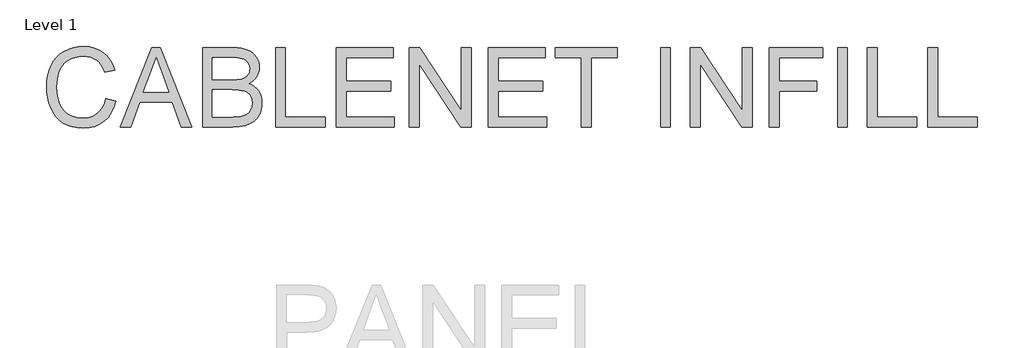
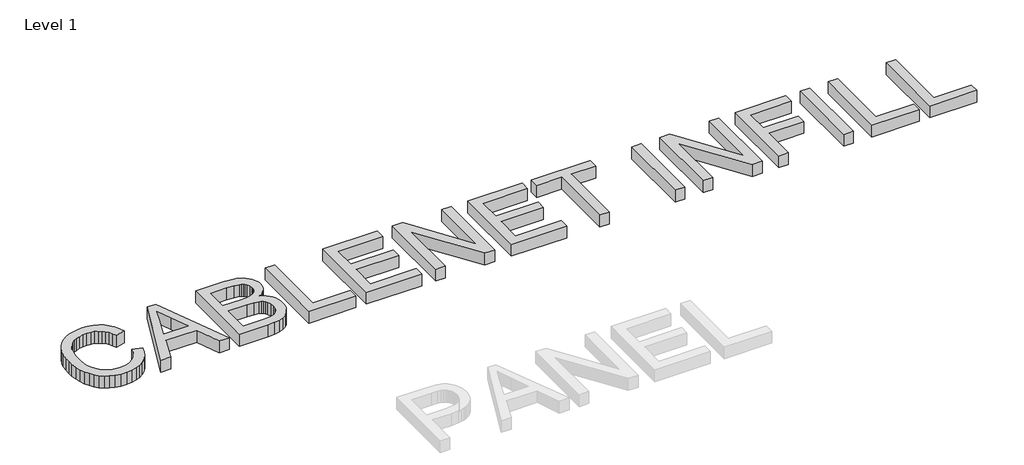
# One storey, part 6 of 8: 1 proxy.
"""IFC4 building model written with IfcOpenShell, lengths in millimetres."""

from ifc_helpers import new_model, si_unit, origin, place, context, project, spatial, faceted_brep, element, save

model = new_model("IFC4")

# Units and contexts
model_context = context("Model", 3, world=origin())
ifc_project = project(units=[si_unit("LENGTHUNIT", "METRE", prefix="MILLI")], contexts=[model_context])

# Site, building, storey
site = spatial("IfcSite", under=ifc_project)
building = spatial("IfcBuilding", under=site)
storey = spatial("IfcBuildingStorey", under=building, Name="Level 1", Elevation=0.0)

# Proxy
placement = place(None, origin())
element("IfcBuildingElementProxy", 1, Name="36\" Arial", ObjectType="36\" Arial", at=placement, inside=storey, context=model_context, shape_type="Brep", body=[
    faceted_brep([(45514.4844259, -16970.1990264, 152.4), (45498.8903267, -17022.537201, 152.4), (45477.5381918, -17068.0159239, 152.4), (45450.4280212, -17106.635195, 152.4), (45417.5598148, -17138.3950144, 152.4), (45379.8258591, -17163.1838461, 152.4), (45338.1184405, -17180.8901546, 152.4), (45292.437559, -17191.5139396, 152.4), (45242.7832145, -17195.0552013, 152.4), (45201.1455058, -17192.4550229, 152.4), (45160.9995884, -17184.6544879, 152.4), (45122.3454624, -17171.653596, 152.4), (45085.1831277, -17153.4523475, 152.4), (45051.1647083, -17129.9949743, 152.4), (45021.9423285, -17101.2257087, 152.4), (44997.515988, -17067.1445505, 152.4), (44977.885687, -17027.7514997, 152.4), (44962.8074409, -16983.9179299, 152.4), (44952.0372651, -16936.5152145, 152.4), (44945.5751597, -16885.5433534, 152.4), (44943.4211245, -16831.0023467, 152.4), (44945.2405523, -16787.6009781, 152.4), (44950.6988355, -16744.8409404, 152.4), (44959.7959743, -16702.7222335, 152.4), (44972.5319686, -16661.2448575, 152.4), (44989.7572789, -16622.1794432, 152.4), (45012.3223656, -16587.2966214, 152.4), (45040.2272288, -16556.5963921, 152.4), (45073.4718685, -16530.0787554, 152.4), (45111.5752866, -16508.7057076, 152.4), (45154.0564848, -16493.4392448, 152.4), (45200.9154632, -16484.2793671, 152.4), (45252.1522218, -16481.2260746, 152.4), (45296.6828904, -16483.9796147, 152.4), (45337.254038, -16492.2402349, 152.4), (45373.8656647, -16506.0079354, 152.4), (45406.5177705, -16525.282716, 152.4), (45435.377659, -16550.5804299, 152.4), (45460.612634, -16582.4169301, 152.4), (45482.2226954, -16620.7922166, 152.4), (45500.2078434, -16665.7062895, 152.4), (45614.4205036, -16638.4915541, 152.4), (45592.7198193, -16577.5372388, 152.4), (45563.9784376, -16523.8327506, 152.4), (45528.1963584, -16477.3780894, 152.4), (45485.3735818, -16438.1732554, 152.4), (45436.3187423, -16407.0408249, 152.4), (45381.8404745, -16384.8033746, 152.4), (45321.9387783, -16371.4609044, 152.4), (45256.6136539, -16367.0134143, 152.4), (45197.9737065, -16370.4501112, 152.4), (45141.8433146, -16380.7602018, 152.4), (45088.2224782, -16397.9436861, 152.4), (45037.1111974, -16422.0005642, 152.4), (44990.1058282, -16452.6798805, 152.4), (44948.8027269, -16489.7306794, 152.4), (44913.2018934, -16533.152961, 152.4), (44883.3033278, -16582.9467251, 152.4), (44859.636825, -16638.1987726, 152.4), (44842.7321801, -16697.9959039, 152.4), (44832.5893932, -16762.3381191, 152.4), (44829.2084642, -16831.2254183, 152.4), (44832.1990179, -16895.4282138, 152.4), (44841.1706789, -16957.539713, 152.4), (44856.1234472, -17017.5599159, 152.4), (44877.0573229, -17075.4888226, 152.4), (44903.7143793, -17129.0120651, 152.4), (44935.83669, -17175.8152756, 152.4), (44973.424255, -17215.8984541, 152.4), (45016.4770742, -17249.2616006, 152.4), (45065.6713335, -17275.5143398, 152.4), (45121.6832185, -17294.2662963, 152.4), (45184.5127295, -17305.5174703, 152.4), (45254.1598662, -17309.2678616, 152.4), (45322.140937, -17304.3114894, 152.4), (45384.6567535, -17289.4423729, 152.4), (45441.7073157, -17264.6605121, 152.4), (45493.2926237, -17229.965907, 152.4), (45538.3949132, -17185.8325847, 152.4), (45575.9964202, -17132.7345725, 152.4), (45606.0971445, -17070.6718702, 152.4), (45628.6970862, -16999.6444779, 152.4), (45514.4844259, -16970.1990264, 0.0), (45628.6970862, -16999.6444779, 0.0), (45606.0971445, -17070.6718702, 0.0), (45575.9964202, -17132.7345725, 0.0), (45538.3949132, -17185.8325847, 0.0), (45493.2926237, -17229.965907, 0.0), (45441.7073157, -17264.6605121, 0.0), (45384.6567535, -17289.4423729, 0.0), (45322.140937, -17304.3114894, 0.0), (45254.1598662, -17309.2678616, 0.0), (45184.5127295, -17305.5174703, 0.0), (45121.6832185, -17294.2662963, 0.0), (45065.6713335, -17275.5143398, 0.0), (45016.4770742, -17249.2616006, 0.0), (44973.424255, -17215.8984541, 0.0), (44935.83669, -17175.8152756, 0.0), (44903.7143793, -17129.0120651, 0.0), (44877.0573229, -17075.4888226, 0.0), (44856.1234472, -17017.5599159, 0.0), (44841.1706789, -16957.539713, 0.0), (44832.1990179, -16895.4282138, 0.0), (44829.2084642, -16831.2254183, 0.0), (44832.5893932, -16762.3381191, 0.0), (44842.7321801, -16697.9959039, 0.0), (44859.636825, -16638.1987726, 0.0), (44883.3033278, -16582.9467251, 0.0), (44913.2018934, -16533.152961, 0.0), (44948.8027269, -16489.7306794, 0.0), (44990.1058282, -16452.6798805, 0.0), (45037.1111974, -16422.0005642, 0.0), (45088.2224782, -16397.9436861, 0.0), (45141.8433146, -16380.7602018, 0.0), (45197.9737065, -16370.4501112, 0.0), (45256.6136539, -16367.0134143, 0.0), (45321.9387783, -16371.4609044, 0.0), (45381.8404745, -16384.8033746, 0.0), (45436.3187423, -16407.0408249, 0.0), (45485.3735818, -16438.1732554, 0.0), (45528.1963584, -16477.3780894, 0.0), (45563.9784376, -16523.8327506, 0.0), (45592.7198193, -16577.5372388, 0.0), (45614.4205036, -16638.4915541, 0.0), (45500.2078434, -16665.7062895, 0.0), (45482.2226954, -16620.7922166, 0.0), (45460.612634, -16582.4169301, 0.0), (45435.377659, -16550.5804299, 0.0), (45406.5177705, -16525.282716, 0.0), (45373.8656647, -16506.0079354, 0.0), (45337.254038, -16492.2402349, 0.0), (45296.6828904, -16483.9796147, 0.0), (45252.1522218, -16481.2260746, 0.0), (45200.9154632, -16484.2793671, 0.0), (45154.0564848, -16493.4392448, 0.0), (45111.5752866, -16508.7057076, 0.0), (45073.4718685, -16530.0787554, 0.0), (45040.2272288, -16556.5963921, 0.0), (45012.3223656, -16587.2966214, 0.0), (44989.7572789, -16622.1794432, 0.0), (44972.5319686, -16661.2448575, 0.0), (44959.7959743, -16702.7222335, 0.0), (44950.6988355, -16744.8409404, 0.0), (44945.2405523, -16787.6009781, 0.0), (44943.4211245, -16831.0023467, 0.0), (44945.5751597, -16885.5433534, 0.0), (44952.0372651, -16936.5152145, 0.0), (44962.8074409, -16983.9179299, 0.0), (44977.885687, -17027.7514997, 0.0), (44997.515988, -17067.1445505, 0.0), (45021.9423285, -17101.2257087, 0.0), (45051.1647083, -17129.9949743, 0.0), (45085.1831277, -17153.4523475, 0.0), (45122.3454624, -17171.653596, 0.0), (45160.9995884, -17184.6544879, 0.0), (45201.1455058, -17192.4550229, 0.0), (45242.7832145, -17195.0552013, 0.0), (45292.437559, -17191.5139396, 0.0), (45338.1184405, -17180.8901546, 0.0), (45379.8258591, -17163.1838461, 0.0), (45417.5598148, -17138.3950144, 0.0), (45450.4280212, -17106.635195, 0.0), (45477.5381918, -17068.0159239, 0.0), (45498.8903267, -17022.537201, 0.0)], [[[0, 1, 2, 3, 4, 5, 6, 7, 8, 9, 10, 11, 12, 13, 14, 15, 16, 17, 18, 19, 20, 21, 22, 23, 24, 25, 26, 27, 28, 29, 30, 31, 32, 33, 34, 35, 36, 37, 38, 39, 40, 41, 42, 43, 44, 45, 46, 47, 48, 49, 50, 51, 52, 53, 54, 55, 56, 57, 58, 59, 60, 61, 62, 63, 64, 65, 66, 67, 68, 69, 70, 71, 72, 73, 74, 75, 76, 77, 78, 79, 80, 81]], [[82, 83, 84, 85, 86, 87, 88, 89, 90, 91, 92, 93, 94, 95, 96, 97, 98, 99, 100, 101, 102, 103, 104, 105, 106, 107, 108, 109, 110, 111, 112, 113, 114, 115, 116, 117, 118, 119, 120, 121, 122, 123, 124, 125, 126, 127, 128, 129, 130, 131, 132, 133, 134, 135, 136, 137, 138, 139, 140, 141, 142, 143, 144, 145, 146, 147, 148, 149, 150, 151, 152, 153, 154, 155, 156, 157, 158, 159, 160, 161, 162, 163]], [[63, 62, 102, 101]], [[64, 63, 101, 100]], [[65, 64, 100, 99]], [[66, 65, 99, 98]], [[67, 66, 98, 97]], [[68, 67, 97, 96]], [[69, 68, 96, 95]], [[70, 69, 95, 94]], [[71, 70, 94, 93]], [[72, 71, 93, 92]], [[73, 72, 92, 91]], [[74, 73, 91, 90]], [[75, 74, 90, 89]], [[76, 75, 89, 88]], [[77, 76, 88, 87]], [[78, 77, 87, 86]], [[79, 78, 86, 85]], [[80, 79, 85, 84]], [[81, 80, 84, 83]], [[0, 81, 83, 82]], [[61, 60, 104, 103]], [[62, 61, 103, 102]], [[54, 53, 111, 110]], [[55, 54, 110, 109]], [[56, 55, 109, 108]], [[57, 56, 108, 107]], [[58, 57, 107, 106]], [[59, 58, 106, 105]], [[60, 59, 105, 104]], [[33, 32, 132, 131]], [[34, 33, 131, 130]], [[35, 34, 130, 129]], [[36, 35, 129, 128]], [[37, 36, 128, 127]], [[38, 37, 127, 126]], [[39, 38, 126, 125]], [[40, 39, 125, 124]], [[41, 40, 124, 123]], [[42, 41, 123, 122]], [[43, 42, 122, 121]], [[44, 43, 121, 120]], [[45, 44, 120, 119]], [[46, 45, 119, 118]], [[47, 46, 118, 117]], [[48, 47, 117, 116]], [[49, 48, 116, 115]], [[50, 49, 115, 114]], [[51, 50, 114, 113]], [[52, 51, 113, 112]], [[53, 52, 112, 111]], [[1, 0, 82, 163]], [[2, 1, 163, 162]], [[3, 2, 162, 161]], [[4, 3, 161, 160]], [[5, 4, 160, 159]], [[6, 5, 159, 158]], [[7, 6, 158, 157]], [[8, 7, 157, 156]], [[9, 8, 156, 155]], [[10, 9, 155, 154]], [[11, 10, 154, 153]], [[12, 11, 153, 152]], [[13, 12, 152, 151]], [[14, 13, 151, 150]], [[15, 14, 150, 149]], [[16, 15, 149, 148]], [[17, 16, 148, 147]], [[18, 17, 147, 146]], [[19, 18, 146, 145]], [[20, 19, 145, 144]], [[21, 20, 144, 143]], [[22, 21, 143, 142]], [[23, 22, 142, 141]], [[24, 23, 141, 140]], [[25, 24, 140, 139]], [[26, 25, 139, 138]], [[27, 26, 138, 137]], [[28, 27, 137, 136]], [[29, 28, 136, 135]], [[30, 29, 135, 134]], [[31, 30, 134, 133]], [[32, 31, 133, 132]]]),
    faceted_brep([(45679.3343398, -17294.991279, 152.4), (45800.0160766, -17294.991279, 152.4), (45904.4135864, -17009.4596284, 152.4), (46280.7353791, -17009.4596284, 152.4), (46385.3559605, -17294.991279, 152.4), (46506.0376972, -17294.991279, 152.4), (46141.3156278, -16381.2899968, 152.4), (46044.0564093, -16381.2899968, 152.4), (45946.3510476, -16895.2469681, 152.4), (46035.80276, -16650.9835638, 152.4), (46092.6860185, -16495.5026571, 152.4), (46156.7075683, -16670.6138648, 152.4), (46239.0209895, -16895.2469681, 152.4), (45679.3343398, -17294.991279, 0.0), (46044.0564093, -16381.2899968, 0.0), (46141.3156278, -16381.2899968, 0.0), (46506.0376972, -17294.991279, 0.0), (46385.3559605, -17294.991279, 0.0), (46280.7353791, -17009.4596284, 0.0), (45904.4135864, -17009.4596284, 0.0), (45800.0160766, -17294.991279, 0.0), (45946.3510476, -16895.2469681, 0.0), (46239.0209895, -16895.2469681, 0.0), (46156.7075683, -16670.6138648, 0.0), (46092.6860185, -16495.5026571, 0.0), (46035.80276, -16650.9835638, 0.0)], [[[0, 1, 2, 3, 4, 5, 6, 7], [8, 9, 10, 11, 12]], [[13, 14, 15, 16, 17, 18, 19, 20], [21, 22, 23, 24, 25]], [[1, 0, 13, 20]], [[2, 1, 20, 19]], [[3, 2, 19, 18]], [[4, 3, 18, 17]], [[5, 4, 17, 16]], [[6, 5, 16, 15]], [[7, 6, 15, 14]], [[0, 7, 14, 13]], [[9, 8, 21, 25]], [[10, 9, 25, 24]], [[11, 10, 24, 23]], [[12, 11, 23, 22]], [[8, 12, 22, 21]]]),
    faceted_brep([(46628.0578636, -17294.991279, 152.4), (46974.0419184, -17294.991279, 152.4), (47054.0409717, -17291.0596421, 152.4), (47120.4884252, -17279.2647311, 152.4), (47175.1688517, -17259.8017338, 152.4), (47219.866824, -17232.8658379, 152.4), (47238.918533, -17215.8984541, 152.4), (47256.3669148, -17195.6686482, 152.4), (47286.4536972, -17145.4217698, 152.4), (47298.2137532, -17116.4573165, 152.4), (47306.6137932, -17086.3356792, 152.4), (47311.6538172, -17055.056858, 152.4), (47313.3338252, -17022.6208529, 152.4), (47310.8730666, -16983.0395855, 152.4), (47303.4907908, -16946.1630613, 152.4), (47291.1869977, -16911.9912802, 152.4), (47273.9616875, -16880.5242423, 152.4), (47252.1634093, -16852.6124081, 152.4), (47226.1407128, -16829.1062381, 152.4), (47195.8935977, -16810.0057321, 152.4), (47161.4220642, -16795.3108903, 152.4), (47190.4701694, -16778.7129689, 152.4), (47215.6005796, -16759.7030858, 152.4), (47236.8132947, -16738.2812411, 152.4), (47254.1083149, -16714.4474346, 152.4), (47267.5274659, -16688.996359, 152.4), (47277.1125738, -16662.7227068, 152.4), (47282.8636386, -16635.6264782, 152.4), (47284.7806602, -16607.707673, 152.4), (47282.5011472, -16577.4814709, 152.4), (47275.6626084, -16547.9244836, 152.4), (47264.2650438, -16519.0367111, 152.4), (47248.3084532, -16490.8181535, 152.4), (47228.3296029, -16464.739689, 152.4), (47204.8652587, -16442.2721961, 152.4), (47177.9154208, -16423.4156747, 152.4), (47147.4800891, -16408.1701249, 152.4), (47112.6739482, -16396.4100689, 152.4), (47072.6116826, -16388.0100288, 152.4), (47027.2932925, -16382.9700048, 152.4), (46976.7187777, -16381.2899968, 152.4), (46628.0578636, -16381.2899968, 152.4), (46742.2705239, -16752.4811427, 152.4), (46742.2705239, -16495.5026571, 152.4), (46935.0043881, -16495.5026571, 152.4), (47023.6753499, -16498.4862398, 152.4), (47081.7855023, -16507.4369878, 152.4), (47101.9595403, -16514.6659019, 152.4), (47119.6519067, -16524.4183135, 152.4), (47134.8626016, -16536.6942226, 152.4), (47147.5916249, -16551.4936292, 152.4), (47164.8239061, -16586.1812634, 152.4), (47170.5679999, -16625.9995443, 152.4), (47169.0274116, -16647.4632151, 152.4), (47164.4056469, -16667.0168352, 152.4), (47156.7027056, -16684.6604047, 152.4), (47145.9185879, -16700.3939236, 152.4), (47132.0951195, -16714.1197982, 152.4), (47115.2741265, -16725.7404344, 152.4), (47072.6395666, -16742.6659922, 152.4), (47023.7868857, -16750.0273551, 152.4), (46950.8424718, -16752.4811427, 152.4), (46742.2705239, -17180.7786188, 152.4), (46742.2705239, -16866.693803, 152.4), (46965.342126, -16866.693803, 152.4), (47046.6796089, -16870.5139042, 152.4), (47106.4349143, -16881.9742078, 152.4), (47129.2230726, -16891.0155786, 152.4), (47148.623331, -16902.8592865, 152.4), (47164.6356895, -16917.5053314, 152.4), (47177.260148, -16934.9537132, 152.4), (47193.6559107, -16975.998888, 152.4), (47199.121165, -17023.7362109, 152.4), (47194.4645453, -17064.8371536, 152.4), (47180.4946862, -17100.6959136, 152.4), (47159.302884, -17130.0019453, 152.4), (47132.9804349, -17151.4447031, 152.4), (47100.6071687, -17166.4183844, 152.4), (47061.2629149, -17176.3171867, 152.4), (46976.4957061, -17180.7786188, 152.4), (46628.0578636, -17294.991279, 0.0), (46628.0578636, -16381.2899968, 0.0), (46976.7187777, -16381.2899968, 0.0), (47027.2932925, -16382.9700048, 0.0), (47072.6116826, -16388.0100288, 0.0), (47112.6739482, -16396.4100689, 0.0), (47147.4800891, -16408.1701249, 0.0), (47177.9154208, -16423.4156747, 0.0), (47204.8652587, -16442.2721961, 0.0), (47228.3296029, -16464.739689, 0.0), (47248.3084532, -16490.8181535, 0.0), (47264.2650438, -16519.0367111, 0.0), (47275.6626084, -16547.9244836, 0.0), (47282.5011472, -16577.4814709, 0.0), (47284.7806602, -16607.707673, 0.0), (47282.8636386, -16635.6264782, 0.0), (47277.1125738, -16662.7227068, 0.0), (47267.5274659, -16688.996359, 0.0), (47254.1083149, -16714.4474346, 0.0), (47236.8132947, -16738.2812411, 0.0), (47215.6005796, -16759.7030858, 0.0), (47190.4701694, -16778.7129689, 0.0), (47161.4220642, -16795.3108903, 0.0), (47195.8935977, -16810.0057321, 0.0), (47226.1407128, -16829.1062381, 0.0), (47252.1634093, -16852.6124081, 0.0), (47273.9616875, -16880.5242423, 0.0), (47291.1869977, -16911.9912802, 0.0), (47303.4907908, -16946.1630613, 0.0), (47310.8730666, -16983.0395855, 0.0), (47313.3338252, -17022.6208529, 0.0), (47311.6538172, -17055.056858, 0.0), (47306.6137932, -17086.3356792, 0.0), (47298.2137532, -17116.4573165, 0.0), (47286.4536972, -17145.4217698, 0.0), (47256.3669148, -17195.6686482, 0.0), (47238.918533, -17215.8984541, 0.0), (47219.866824, -17232.8658379, 0.0), (47175.1688517, -17259.8017338, 0.0), (47120.4884252, -17279.2647311, 0.0), (47054.0409717, -17291.0596421, 0.0), (46974.0419184, -17294.991279, 0.0), (46742.2705239, -16752.4811427, 0.0), (46950.8424718, -16752.4811427, 0.0), (47023.7868857, -16750.0273551, 0.0), (47072.6395666, -16742.6659922, 0.0), (47115.2741265, -16725.7404344, 0.0), (47132.0951195, -16714.1197982, 0.0), (47145.9185879, -16700.3939236, 0.0), (47156.7027056, -16684.6604047, 0.0), (47164.4056469, -16667.0168352, 0.0), (47169.0274116, -16647.4632151, 0.0), (47170.5679999, -16625.9995443, 0.0), (47164.8239061, -16586.1812634, 0.0), (47147.5916249, -16551.4936292, 0.0), (47134.8626016, -16536.6942226, 0.0), (47119.6519067, -16524.4183135, 0.0), (47101.9595403, -16514.6659019, 0.0), (47081.7855023, -16507.4369878, 0.0), (47023.6753499, -16498.4862398, 0.0), (46935.0043881, -16495.5026571, 0.0), (46742.2705239, -16495.5026571, 0.0), (46742.2705239, -17180.7786188, 0.0), (46976.4957061, -17180.7786188, 0.0), (47061.2629149, -17176.3171867, 0.0), (47100.6071687, -17166.4183844, 0.0), (47132.9804349, -17151.4447031, 0.0), (47159.302884, -17130.0019453, 0.0), (47180.4946862, -17100.6959136, 0.0), (47194.4645453, -17064.8371536, 0.0), (47199.121165, -17023.7362109, 0.0), (47193.6559107, -16975.998888, 0.0), (47177.260148, -16934.9537132, 0.0), (47164.6356895, -16917.5053314, 0.0), (47148.623331, -16902.8592865, 0.0), (47129.2230726, -16891.0155786, 0.0), (47106.4349143, -16881.9742078, 0.0), (47046.6796089, -16870.5139042, 0.0), (46965.342126, -16866.693803, 0.0), (46742.2705239, -16866.693803, 0.0)], [[[0, 1, 2, 3, 4, 5, 6, 7, 8, 9, 10, 11, 12, 13, 14, 15, 16, 17, 18, 19, 20, 21, 22, 23, 24, 25, 26, 27, 28, 29, 30, 31, 32, 33, 34, 35, 36, 37, 38, 39, 40, 41], [42, 43, 44, 45, 46, 47, 48, 49, 50, 51, 52, 53, 54, 55, 56, 57, 58, 59, 60, 61], [62, 63, 64, 65, 66, 67, 68, 69, 70, 71, 72, 73, 74, 75, 76, 77, 78, 79]], [[80, 81, 82, 83, 84, 85, 86, 87, 88, 89, 90, 91, 92, 93, 94, 95, 96, 97, 98, 99, 100, 101, 102, 103, 104, 105, 106, 107, 108, 109, 110, 111, 112, 113, 114, 115, 116, 117, 118, 119, 120, 121], [122, 123, 124, 125, 126, 127, 128, 129, 130, 131, 132, 133, 134, 135, 136, 137, 138, 139, 140, 141], [142, 143, 144, 145, 146, 147, 148, 149, 150, 151, 152, 153, 154, 155, 156, 157, 158, 159]], [[37, 36, 86, 85]], [[38, 37, 85, 84]], [[39, 38, 84, 83]], [[40, 39, 83, 82]], [[41, 40, 82, 81]], [[0, 41, 81, 80]], [[16, 15, 107, 106]], [[17, 16, 106, 105]], [[18, 17, 105, 104]], [[19, 18, 104, 103]], [[20, 19, 103, 102]], [[21, 20, 102, 101]], [[22, 21, 101, 100]], [[23, 22, 100, 99]], [[24, 23, 99, 98]], [[25, 24, 98, 97]], [[26, 25, 97, 96]], [[27, 26, 96, 95]], [[28, 27, 95, 94]], [[29, 28, 94, 93]], [[30, 29, 93, 92]], [[31, 30, 92, 91]], [[32, 31, 91, 90]], [[33, 32, 90, 89]], [[34, 33, 89, 88]], [[35, 34, 88, 87]], [[36, 35, 87, 86]], [[1, 0, 80, 121]], [[2, 1, 121, 120]], [[3, 2, 120, 119]], [[4, 3, 119, 118]], [[5, 4, 118, 117]], [[6, 5, 117, 116]], [[7, 6, 116, 115]], [[8, 7, 115, 114]], [[9, 8, 114, 113]], [[10, 9, 113, 112]], [[11, 10, 112, 111]], [[12, 11, 111, 110]], [[13, 12, 110, 109]], [[14, 13, 109, 108]], [[15, 14, 108, 107]], [[43, 42, 122, 141]], [[44, 43, 141, 140]], [[45, 44, 140, 139]], [[46, 45, 139, 138]], [[47, 46, 138, 137]], [[48, 47, 137, 136]], [[49, 48, 136, 135]], [[50, 49, 135, 134]], [[51, 50, 134, 133]], [[52, 51, 133, 132]], [[53, 52, 132, 131]], [[54, 53, 131, 130]], [[55, 54, 130, 129]], [[56, 55, 129, 128]], [[57, 56, 128, 127]], [[58, 57, 127, 126]], [[59, 58, 126, 125]], [[60, 59, 125, 124]], [[61, 60, 124, 123]], [[42, 61, 123, 122]], [[63, 62, 142, 159]], [[64, 63, 159, 158]], [[65, 64, 158, 157]], [[66, 65, 157, 156]], [[67, 66, 156, 155]], [[68, 67, 155, 154]], [[69, 68, 154, 153]], [[70, 69, 153, 152]], [[71, 70, 152, 151]], [[72, 71, 151, 150]], [[73, 72, 150, 149]], [[74, 73, 149, 148]], [[75, 74, 148, 147]], [[76, 75, 147, 146]], [[77, 76, 146, 145]], [[78, 77, 145, 144]], [[79, 78, 144, 143]], [[62, 79, 143, 142]]]),
    faceted_brep([(47470.3762331, -17294.991279, 152.4), (48041.4395345, -17294.991279, 152.4), (48041.4395345, -17180.7786188, 152.4), (47584.5888934, -17180.7786188, 152.4), (47584.5888934, -16381.2899968, 152.4), (47470.3762331, -16381.2899968, 152.4), (47470.3762331, -17294.991279, 0.0), (47470.3762331, -16381.2899968, 0.0), (47584.5888934, -16381.2899968, 0.0), (47584.5888934, -17180.7786188, 0.0), (48041.4395345, -17180.7786188, 0.0), (48041.4395345, -17294.991279, 0.0)], [[[0, 1, 2, 3, 4, 5]], [[6, 7, 8, 9, 10, 11]], [[1, 0, 6, 11]], [[2, 1, 11, 10]], [[3, 2, 10, 9]], [[4, 3, 9, 8]], [[5, 4, 8, 7]], [[0, 5, 7, 6]]]),
    faceted_brep([(48169.9287773, -17294.991279, 152.4), (48840.9281564, -17294.991279, 152.4), (48840.9281564, -17180.7786188, 152.4), (48284.1414376, -17180.7786188, 152.4), (48284.1414376, -16880.9703855, 152.4), (48798.0984088, -16880.9703855, 152.4), (48798.0984088, -16766.7577253, 152.4), (48284.1414376, -16766.7577253, 152.4), (48284.1414376, -16495.5026571, 152.4), (48826.6515739, -16495.5026571, 152.4), (48826.6515739, -16381.2899968, 152.4), (48169.9287773, -16381.2899968, 152.4), (48169.9287773, -17294.991279, 0.0), (48169.9287773, -16381.2899968, 0.0), (48826.6515739, -16381.2899968, 0.0), (48826.6515739, -16495.5026571, 0.0), (48284.1414376, -16495.5026571, 0.0), (48284.1414376, -16766.7577253, 0.0), (48798.0984088, -16766.7577253, 0.0), (48798.0984088, -16880.9703855, 0.0), (48284.1414376, -16880.9703855, 0.0), (48284.1414376, -17180.7786188, 0.0), (48840.9281564, -17180.7786188, 0.0), (48840.9281564, -17294.991279, 0.0)], [[[0, 1, 2, 3, 4, 5, 6, 7, 8, 9, 10, 11]], [[12, 13, 14, 15, 16, 17, 18, 19, 20, 21, 22, 23]], [[10, 9, 15, 14]], [[11, 10, 14, 13]], [[0, 11, 13, 12]], [[1, 0, 12, 23]], [[2, 1, 23, 22]], [[3, 2, 22, 21]], [[4, 3, 21, 20]], [[5, 4, 20, 19]], [[6, 5, 19, 18]], [[7, 6, 18, 17]], [[8, 7, 17, 16]], [[9, 8, 16, 15]]]),
    faceted_brep([(49012.2471468, -17294.991279, 152.4), (49126.4598071, -17294.991279, 152.4), (49126.4598071, -16570.9008586, 152.4), (49603.8330356, -17294.991279, 152.4), (49726.0762736, -17294.991279, 152.4), (49726.0762736, -16381.2899968, 152.4), (49611.8636133, -16381.2899968, 152.4), (49611.8636133, -17105.1573457, 152.4), (49134.4903848, -16381.2899968, 152.4), (49012.2471468, -16381.2899968, 152.4), (49012.2471468, -17294.991279, 0.0), (49012.2471468, -16381.2899968, 0.0), (49134.4903848, -16381.2899968, 0.0), (49611.8636133, -17105.1573457, 0.0), (49611.8636133, -16381.2899968, 0.0), (49726.0762736, -16381.2899968, 0.0), (49726.0762736, -17294.991279, 0.0), (49603.8330356, -17294.991279, 0.0), (49126.4598071, -16570.9008586, 0.0), (49126.4598071, -17294.991279, 0.0)], [[[0, 1, 2, 3, 4, 5, 6, 7, 8, 9]], [[10, 11, 12, 13, 14, 15, 16, 17, 18, 19]], [[1, 0, 10, 19]], [[2, 1, 19, 18]], [[3, 2, 18, 17]], [[4, 3, 17, 16]], [[5, 4, 16, 15]], [[6, 5, 15, 14]], [[7, 6, 14, 13]], [[8, 7, 13, 12]], [[9, 8, 12, 11]], [[0, 9, 11, 10]]]),
    faceted_brep([(49925.948429, -17294.991279, 152.4), (50596.9478082, -17294.991279, 152.4), (50596.9478082, -17180.7786188, 152.4), (50040.1610893, -17180.7786188, 152.4), (50040.1610893, -16880.9703855, 152.4), (50554.1180606, -16880.9703855, 152.4), (50554.1180606, -16766.7577253, 152.4), (50040.1610893, -16766.7577253, 152.4), (50040.1610893, -16495.5026571, 152.4), (50582.6712256, -16495.5026571, 152.4), (50582.6712256, -16381.2899968, 152.4), (49925.948429, -16381.2899968, 152.4), (49925.948429, -17294.991279, 0.0), (49925.948429, -16381.2899968, 0.0), (50582.6712256, -16381.2899968, 0.0), (50582.6712256, -16495.5026571, 0.0), (50040.1610893, -16495.5026571, 0.0), (50040.1610893, -16766.7577253, 0.0), (50554.1180606, -16766.7577253, 0.0), (50554.1180606, -16880.9703855, 0.0), (50040.1610893, -16880.9703855, 0.0), (50040.1610893, -17180.7786188, 0.0), (50596.9478082, -17180.7786188, 0.0), (50596.9478082, -17294.991279, 0.0)], [[[0, 1, 2, 3, 4, 5, 6, 7, 8, 9, 10, 11]], [[12, 13, 14, 15, 16, 17, 18, 19, 20, 21, 22, 23]], [[2, 1, 23, 22]], [[3, 2, 22, 21]], [[4, 3, 21, 20]], [[5, 4, 20, 19]], [[6, 5, 19, 18]], [[7, 6, 18, 17]], [[8, 7, 17, 16]], [[9, 8, 16, 15]], [[10, 9, 15, 14]], [[11, 10, 14, 13]], [[0, 11, 13, 12]], [[1, 0, 12, 23]]]),
    faceted_brep([(50996.6921191, -17294.991279, 152.4), (51110.9047794, -17294.991279, 152.4), (51110.9047794, -16495.5026571, 152.4), (51410.7130126, -16495.5026571, 152.4), (51410.7130126, -16381.2899968, 152.4), (50696.8838859, -16381.2899968, 152.4), (50696.8838859, -16495.5026571, 152.4), (50996.6921191, -16495.5026571, 152.4), (50996.6921191, -17294.991279, 0.0), (50996.6921191, -16495.5026571, 0.0), (50696.8838859, -16495.5026571, 0.0), (50696.8838859, -16381.2899968, 0.0), (51410.7130126, -16381.2899968, 0.0), (51410.7130126, -16495.5026571, 0.0), (51110.9047794, -16495.5026571, 0.0), (51110.9047794, -17294.991279, 0.0)], [[[0, 1, 2, 3, 4, 5, 6, 7]], [[8, 9, 10, 11, 12, 13, 14, 15]], [[1, 0, 8, 15]], [[2, 1, 15, 14]], [[3, 2, 14, 13]], [[4, 3, 13, 12]], [[5, 4, 12, 11]], [[6, 5, 11, 10]], [[7, 6, 10, 9]], [[0, 7, 9, 8]]]),
    faceted_brep([(51910.3934013, -17294.991279, 152.4), (52024.6060616, -17294.991279, 152.4), (52024.6060616, -16381.2899968, 152.4), (51910.3934013, -16381.2899968, 152.4), (51910.3934013, -17294.991279, 0.0), (51910.3934013, -16381.2899968, 0.0), (52024.6060616, -16381.2899968, 0.0), (52024.6060616, -17294.991279, 0.0)], [[[0, 1, 2, 3]], [[4, 5, 6, 7]], [[1, 0, 4, 7]], [[2, 1, 7, 6]], [[3, 2, 6, 5]], [[0, 3, 5, 4]]]),
    faceted_brep([(52253.0313822, -17294.991279, 152.4), (52367.2440424, -17294.991279, 152.4), (52367.2440424, -16570.9008586, 152.4), (52844.6172709, -17294.991279, 152.4), (52966.8605089, -17294.991279, 152.4), (52966.8605089, -16381.2899968, 152.4), (52852.6478486, -16381.2899968, 152.4), (52852.6478486, -17105.1573457, 152.4), (52375.2746201, -16381.2899968, 152.4), (52253.0313822, -16381.2899968, 152.4), (52253.0313822, -17294.991279, 0.0), (52253.0313822, -16381.2899968, 0.0), (52375.2746201, -16381.2899968, 0.0), (52852.6478486, -17105.1573457, 0.0), (52852.6478486, -16381.2899968, 0.0), (52966.8605089, -16381.2899968, 0.0), (52966.8605089, -17294.991279, 0.0), (52844.6172709, -17294.991279, 0.0), (52367.2440424, -16570.9008586, 0.0), (52367.2440424, -17294.991279, 0.0)], [[[0, 1, 2, 3, 4, 5, 6, 7, 8, 9]], [[10, 11, 12, 13, 14, 15, 16, 17, 18, 19]], [[1, 0, 10, 19]], [[2, 1, 19, 18]], [[3, 2, 18, 17]], [[4, 3, 17, 16]], [[5, 4, 16, 15]], [[6, 5, 15, 14]], [[7, 6, 14, 13]], [[8, 7, 13, 12]], [[9, 8, 12, 11]], [[0, 9, 11, 10]]]),
    faceted_brep([(53166.7326644, -17294.991279, 152.4), (53280.9453246, -17294.991279, 152.4), (53280.9453246, -16880.9703855, 152.4), (53709.2428007, -16880.9703855, 152.4), (53709.2428007, -16766.7577253, 152.4), (53280.9453246, -16766.7577253, 152.4), (53280.9453246, -16495.5026571, 152.4), (53780.6257133, -16495.5026571, 152.4), (53780.6257133, -16381.2899968, 152.4), (53166.7326644, -16381.2899968, 152.4), (53166.7326644, -17294.991279, 0.0), (53166.7326644, -16381.2899968, 0.0), (53780.6257133, -16381.2899968, 0.0), (53780.6257133, -16495.5026571, 0.0), (53280.9453246, -16495.5026571, 0.0), (53280.9453246, -16766.7577253, 0.0), (53709.2428007, -16766.7577253, 0.0), (53709.2428007, -16880.9703855, 0.0), (53280.9453246, -16880.9703855, 0.0), (53280.9453246, -17294.991279, 0.0)], [[[0, 1, 2, 3, 4, 5, 6, 7, 8, 9]], [[10, 11, 12, 13, 14, 15, 16, 17, 18, 19]], [[1, 0, 10, 19]], [[2, 1, 19, 18]], [[3, 2, 18, 17]], [[4, 3, 17, 16]], [[5, 4, 16, 15]], [[6, 5, 15, 14]], [[7, 6, 14, 13]], [[8, 7, 13, 12]], [[9, 8, 12, 11]], [[0, 9, 11, 10]]]),
    faceted_brep([(53951.9447038, -17294.991279, 152.4), (54066.157364, -17294.991279, 152.4), (54066.157364, -16381.2899968, 152.4), (53951.9447038, -16381.2899968, 152.4), (53951.9447038, -17294.991279, 0.0), (53951.9447038, -16381.2899968, 0.0), (54066.157364, -16381.2899968, 0.0), (54066.157364, -17294.991279, 0.0)], [[[0, 1, 2, 3]], [[4, 5, 6, 7]], [[1, 0, 4, 7]], [[2, 1, 7, 6]], [[3, 2, 6, 5]], [[0, 3, 5, 4]]]),
    faceted_brep([(54294.5826846, -17294.991279, 152.4), (54865.645986, -17294.991279, 152.4), (54865.645986, -17180.7786188, 152.4), (54408.7953449, -17180.7786188, 152.4), (54408.7953449, -16381.2899968, 152.4), (54294.5826846, -16381.2899968, 152.4), (54294.5826846, -17294.991279, 0.0), (54294.5826846, -16381.2899968, 0.0), (54408.7953449, -16381.2899968, 0.0), (54408.7953449, -17180.7786188, 0.0), (54865.645986, -17180.7786188, 0.0), (54865.645986, -17294.991279, 0.0)], [[[0, 1, 2, 3, 4, 5]], [[6, 7, 8, 9, 10, 11]], [[1, 0, 6, 11]], [[2, 1, 11, 10]], [[3, 2, 10, 9]], [[4, 3, 9, 8]], [[5, 4, 8, 7]], [[0, 5, 7, 6]]]),
    faceted_brep([(54994.1352288, -17294.991279, 152.4), (55565.1985301, -17294.991279, 152.4), (55565.1985301, -17180.7786188, 152.4), (55108.347889, -17180.7786188, 152.4), (55108.347889, -16381.2899968, 152.4), (54994.1352288, -16381.2899968, 152.4), (54994.1352288, -17294.991279, 0.0), (54994.1352288, -16381.2899968, 0.0), (55108.347889, -16381.2899968, 0.0), (55108.347889, -17180.7786188, 0.0), (55565.1985301, -17180.7786188, 0.0), (55565.1985301, -17294.991279, 0.0)], [[[0, 1, 2, 3, 4, 5]], [[6, 7, 8, 9, 10, 11]], [[1, 0, 6, 11]], [[2, 1, 11, 10]], [[3, 2, 10, 9]], [[4, 3, 9, 8]], [[5, 4, 8, 7]], [[0, 5, 7, 6]]]),
])

save(model, "model.ifc")
